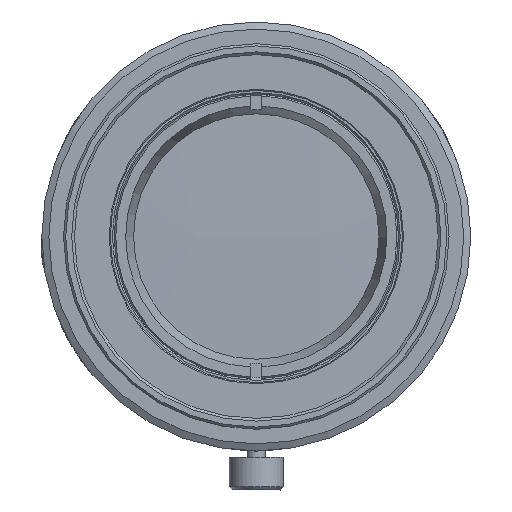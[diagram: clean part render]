
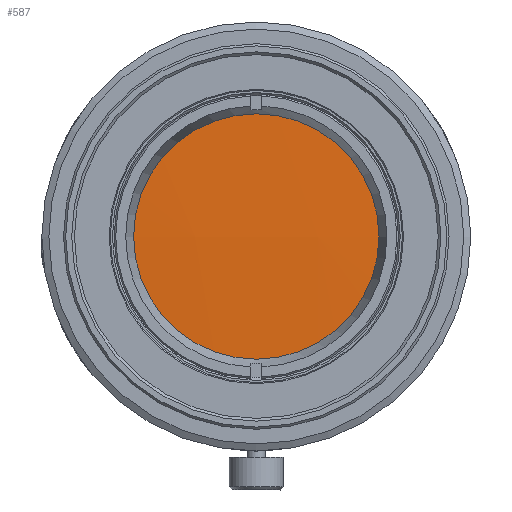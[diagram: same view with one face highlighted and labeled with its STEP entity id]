
A CAD part, front view. The second image highlights one B-rep face of the part: STEP entity #587.
In plain terms, the highlighted spherical face has radius 312.81 mm.
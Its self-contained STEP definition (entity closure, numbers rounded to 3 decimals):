
#587 = ADVANCED_FACE( 'NONE', ( #1408 ), #1409, .T. );
#1408 = FACE_OUTER_BOUND( '', #2473, .T. );
#1409 = SPHERICAL_SURFACE( '', #2474, 312.81 );
#2473 = EDGE_LOOP( '', ( #4072 ) );
#2474 = AXIS2_PLACEMENT_3D( '', #4073, #4074, #4075 );
#4072 = ORIENTED_EDGE( '', *, *, #6012, .T. );
#4073 = CARTESIAN_POINT( '', ( 0., 249.847, 0. ) );
#4074 = DIRECTION( '', ( 0., 0., 1. ) );
#4075 = DIRECTION( '', ( -0.037, -0.999, 0. ) );
#6012 = EDGE_CURVE( 'NONE', #7255, #7255, #7256, .T. );
#7255 = VERTEX_POINT( '', #9472 );
#7256 = CIRCLE( '', #9473, 11.3 );
#9472 = CARTESIAN_POINT( '', ( 0., -62.758, -11.3 ) );
#9473 = AXIS2_PLACEMENT_3D( '', #10895, #10896, #10897 );
#10895 = CARTESIAN_POINT( '', ( 0., -62.758, 0. ) );
#10896 = DIRECTION( '', ( 0., -1., 0. ) );
#10897 = DIRECTION( '', ( 0., 0., -1. ) );
